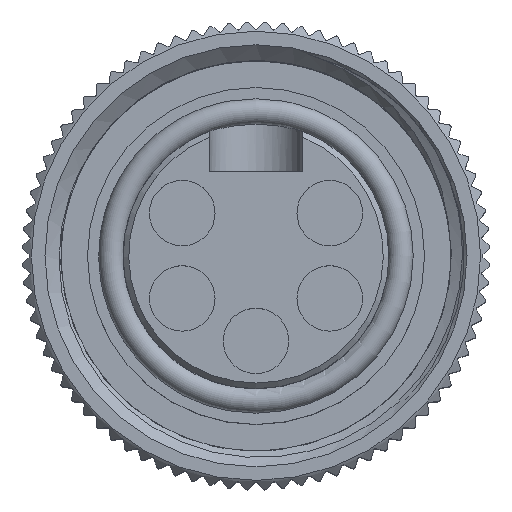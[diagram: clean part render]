
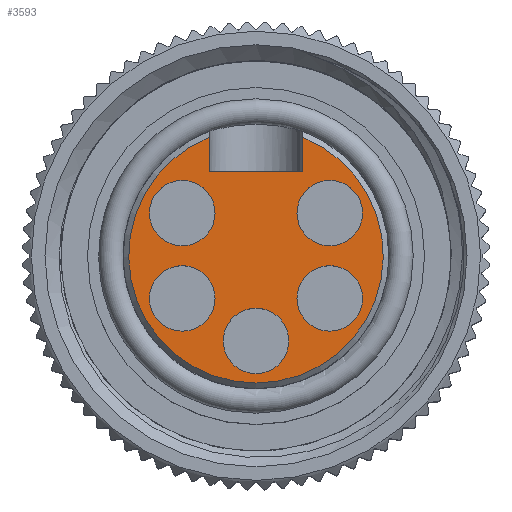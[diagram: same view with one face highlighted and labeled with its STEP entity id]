
A CAD part, top view. The second image highlights one B-rep face of the part: STEP entity #3593.
In plain terms, the highlighted planar face has unit normal (0, 0, 1).
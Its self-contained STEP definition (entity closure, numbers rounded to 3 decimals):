
#173 = EDGE_LOOP ( 'NONE', ( #18818 ) ) ;
#253 = DIRECTION ( 'NONE',  ( 0., 0., 1. ) ) ;
#298 = LINE ( 'NONE', #19927, #4235 ) ;
#543 = VERTEX_POINT ( 'NONE', #22749 ) ;
#859 = AXIS2_PLACEMENT_3D ( 'NONE', #6318, #6242, #17019 ) ;
#1239 = CARTESIAN_POINT ( 'NONE',  ( -2.5, 6.645, 0. ) ) ;
#1298 = VECTOR ( 'NONE', #11980, 1000. ) ;
#1316 = CARTESIAN_POINT ( 'NONE',  ( -3.94, 0.53, 0. ) ) ;
#1616 = CARTESIAN_POINT ( 'NONE',  ( 2.5, 4.5, 0. ) ) ;
#3469 = CIRCLE ( 'NONE', #8510, 1.75 ) ;
#3593 = ADVANCED_FACE ( 'NONE', ( #5464, #7140, #14428, #13846, #9093, #4325 ), #17053, .F. ) ;
#4235 = VECTOR ( 'NONE', #16546, 1000. ) ;
#4325 = FACE_OUTER_BOUND ( 'NONE', #15488, .T. ) ;
#4476 = EDGE_CURVE ( 'NONE', #543, #543, #6306, .T. ) ;
#4516 = EDGE_CURVE ( 'NONE', #12613, #12613, #17759, .T. ) ;
#4542 = CARTESIAN_POINT ( 'NONE',  ( 3.94, 0.53, 0. ) ) ;
#4557 = ORIENTED_EDGE ( 'NONE', *, *, #10101, .T. ) ;
#4578 = EDGE_CURVE ( 'NONE', #15700, #15700, #3469, .T. ) ;
#4633 = EDGE_LOOP ( 'NONE', ( #13374 ) ) ;
#4772 = VERTEX_POINT ( 'NONE', #17233 ) ;
#4834 = LINE ( 'NONE', #1616, #12116 ) ;
#4880 = DIRECTION ( 'NONE',  ( 0., 0., 1. ) ) ;
#5340 = VERTEX_POINT ( 'NONE', #4542 ) ;
#5464 = FACE_BOUND ( 'NONE', #18084, .T. ) ;
#5585 = DIRECTION ( 'NONE',  ( 0., 0., 1. ) ) ;
#6242 = DIRECTION ( 'NONE',  ( 0., 0., 1. ) ) ;
#6306 = CIRCLE ( 'NONE', #10500, 1.75 ) ;
#6318 = CARTESIAN_POINT ( 'NONE',  ( -3.94, 2.28, 0. ) ) ;
#6918 = AXIS2_PLACEMENT_3D ( 'NONE', #18433, #253, #21614 ) ;
#7140 = FACE_BOUND ( 'NONE', #173, .T. ) ;
#7254 = EDGE_CURVE ( 'NONE', #9495, #17796, #298, .T. ) ;
#7261 = EDGE_CURVE ( 'NONE', #5340, #5340, #16835, .T. ) ;
#8272 = CARTESIAN_POINT ( 'NONE',  ( 2.5, 6.324, 0. ) ) ;
#8340 = CARTESIAN_POINT ( 'NONE',  ( 0., 6.8, 0. ) ) ;
#8510 = AXIS2_PLACEMENT_3D ( 'NONE', #15618, #4880, #13875 ) ;
#9093 = FACE_BOUND ( 'NONE', #14796, .T. ) ;
#9244 = DIRECTION ( 'NONE',  ( 0., 0., 1. ) ) ;
#9413 = VERTEX_POINT ( 'NONE', #8272 ) ;
#9495 = VERTEX_POINT ( 'NONE', #12034 ) ;
#9921 = VERTEX_POINT ( 'NONE', #9979 ) ;
#9979 = CARTESIAN_POINT ( 'NONE',  ( -2.5, 6.324, 0. ) ) ;
#10025 = CARTESIAN_POINT ( 'NONE',  ( 0., -6.3, 0. ) ) ;
#10079 = DIRECTION ( 'NONE',  ( 0., 0., -1. ) ) ;
#10101 = EDGE_CURVE ( 'NONE', #9921, #9413, #16221, .T. ) ;
#10132 = EDGE_CURVE ( 'NONE', #4772, #4772, #18190, .T. ) ;
#10500 = AXIS2_PLACEMENT_3D ( 'NONE', #13030, #14834, #16706 ) ;
#11386 = ORIENTED_EDGE ( 'NONE', *, *, #4476, .F. ) ;
#11514 = ORIENTED_EDGE ( 'NONE', *, *, #16754, .F. ) ;
#11980 = DIRECTION ( 'NONE',  ( 0., -1., 0. ) ) ;
#12034 = CARTESIAN_POINT ( 'NONE',  ( -2.5, 4.5, 0. ) ) ;
#12116 = VECTOR ( 'NONE', #21114, 1000. ) ;
#12613 = VERTEX_POINT ( 'NONE', #1316 ) ;
#13030 = CARTESIAN_POINT ( 'NONE',  ( -3.94, -2.28, 0. ) ) ;
#13374 = ORIENTED_EDGE ( 'NONE', *, *, #4516, .F. ) ;
#13801 = ORIENTED_EDGE ( 'NONE', *, *, #7261, .F. ) ;
#13846 = FACE_BOUND ( 'NONE', #4633, .T. ) ;
#13875 = DIRECTION ( 'NONE',  ( 0., -1., 0. ) ) ;
#14428 = FACE_BOUND ( 'NONE', #20097, .T. ) ;
#14717 = AXIS2_PLACEMENT_3D ( 'NONE', #21752, #5585, #19837 ) ;
#14796 = EDGE_LOOP ( 'NONE', ( #23050 ) ) ;
#14834 = DIRECTION ( 'NONE',  ( 0., 0., 1. ) ) ;
#15019 = AXIS2_PLACEMENT_3D ( 'NONE', #23162, #9244, #16298 ) ;
#15417 = DIRECTION ( 'NONE',  ( -1., 0., 0. ) ) ;
#15488 = EDGE_LOOP ( 'NONE', ( #19168, #11514, #4557, #16815 ) ) ;
#15612 = LINE ( 'NONE', #1239, #1298 ) ;
#15618 = CARTESIAN_POINT ( 'NONE',  ( 0., -4.55, 0. ) ) ;
#15700 = VERTEX_POINT ( 'NONE', #10025 ) ;
#16221 = CIRCLE ( 'NONE', #15019, 6.8 ) ;
#16298 = DIRECTION ( 'NONE',  ( 1., 0., 0. ) ) ;
#16546 = DIRECTION ( 'NONE',  ( 1., 0., 0. ) ) ;
#16706 = DIRECTION ( 'NONE',  ( 0., -1., 0. ) ) ;
#16754 = EDGE_CURVE ( 'NONE', #9921, #9495, #15612, .T. ) ;
#16815 = ORIENTED_EDGE ( 'NONE', *, *, #20723, .F. ) ;
#16835 = CIRCLE ( 'NONE', #6918, 1.75 ) ;
#17019 = DIRECTION ( 'NONE',  ( 0., -1., 0. ) ) ;
#17053 = PLANE ( 'NONE',  #22767 ) ;
#17233 = CARTESIAN_POINT ( 'NONE',  ( 3.94, -4.03, 0. ) ) ;
#17759 = CIRCLE ( 'NONE', #859, 1.75 ) ;
#17796 = VERTEX_POINT ( 'NONE', #19990 ) ;
#18084 = EDGE_LOOP ( 'NONE', ( #11386 ) ) ;
#18190 = CIRCLE ( 'NONE', #14717, 1.75 ) ;
#18433 = CARTESIAN_POINT ( 'NONE',  ( 3.94, 2.28, 0. ) ) ;
#18818 = ORIENTED_EDGE ( 'NONE', *, *, #10132, .F. ) ;
#19168 = ORIENTED_EDGE ( 'NONE', *, *, #7254, .F. ) ;
#19837 = DIRECTION ( 'NONE',  ( 0., -1., 0. ) ) ;
#19927 = CARTESIAN_POINT ( 'NONE',  ( -2.5, 4.5, 0. ) ) ;
#19990 = CARTESIAN_POINT ( 'NONE',  ( 2.5, 4.5, 0. ) ) ;
#20097 = EDGE_LOOP ( 'NONE', ( #13801 ) ) ;
#20723 = EDGE_CURVE ( 'NONE', #17796, #9413, #4834, .T. ) ;
#21114 = DIRECTION ( 'NONE',  ( 0., 1., 0. ) ) ;
#21614 = DIRECTION ( 'NONE',  ( 0., -1., 0. ) ) ;
#21752 = CARTESIAN_POINT ( 'NONE',  ( 3.94, -2.28, 0. ) ) ;
#22749 = CARTESIAN_POINT ( 'NONE',  ( -3.94, -4.03, 0. ) ) ;
#22767 = AXIS2_PLACEMENT_3D ( 'NONE', #8340, #10079, #15417 ) ;
#23050 = ORIENTED_EDGE ( 'NONE', *, *, #4578, .F. ) ;
#23162 = CARTESIAN_POINT ( 'NONE',  ( 0., 0., 0. ) ) ;
